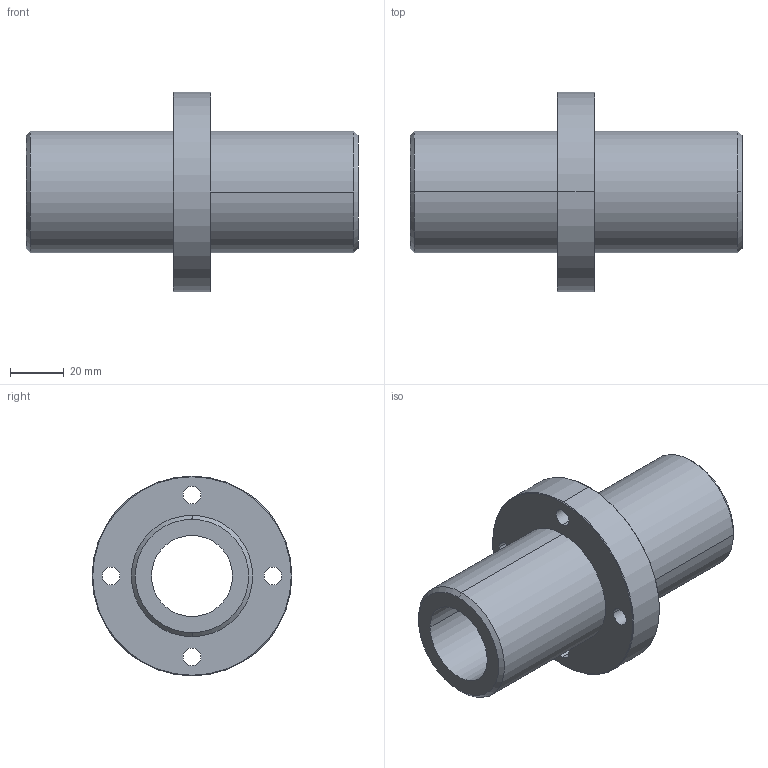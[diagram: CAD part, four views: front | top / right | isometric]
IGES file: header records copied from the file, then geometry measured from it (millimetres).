
Start section: 3D InterOp IGES (Version 21 0 1), Spatial Corp. Copyright (c) 1999-2007.
Global section: file name: CFPJR30.igs; native system: Spatial Corp.; preprocessor: 3D InterOp GENERIC/IGES 3.0; author: Noname; organization: Noname; date: 20220324.131535; units: millimetre
Bounding box: 123 x 74 x 74 mm (x, y, z)
Surface area: 38345.7 mm2 (no closed solid volume)
Topology: 0 solids, 0 shells, 40 faces, 180 edges, 180 vertices
Faces by surface type: revolution 32, extrusion 8
